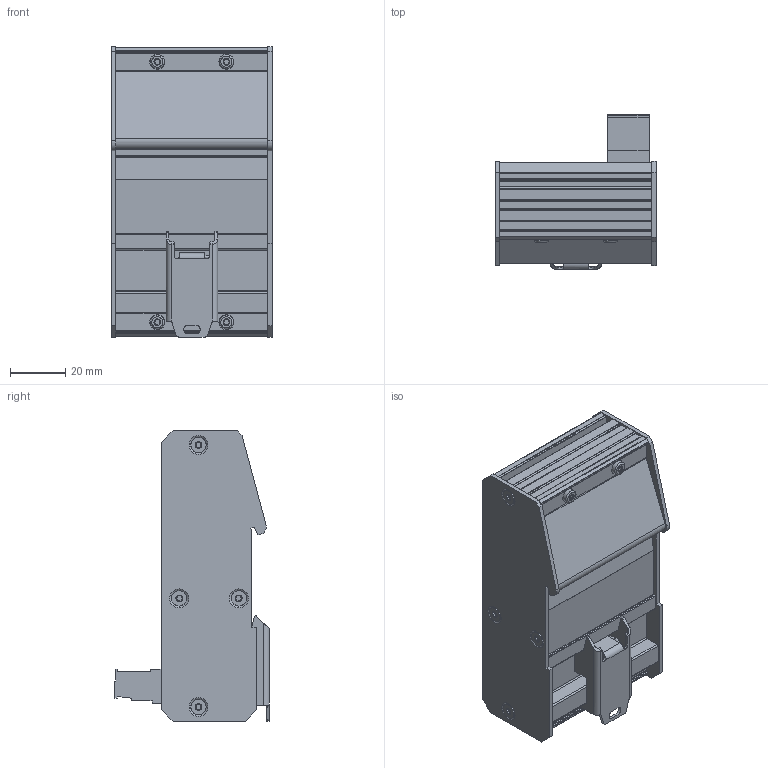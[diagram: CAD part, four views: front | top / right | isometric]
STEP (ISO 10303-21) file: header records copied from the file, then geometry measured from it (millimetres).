
FILE_DESCRIPTION(('TFLEX Exchange Step'),'2;1');
FILE_NAME('TZCA01702A_NITE-RF8-GE.stp', '2020-04-03T08:53:04+02:00',('User'),('Unknown organisation'),'TFLEX Exchange 2019.0','T-FLEX CAD','Unknown authorisation');
FILE_SCHEMA( ('AUTOMOTIVE_DESIGN { 1 0 10303 214 1 1 1 1 }') );
Length unit declared in the file: millimetre
Products named in the file (1): TZCA01702A_NITE-RF8-GE
Bounding box: 58.1 x 55.9 x 105 mm (x, y, z)
Volume: 169985.5 mm3; surface area: 49653.5 mm2
Topology: 2 solids, 12 shells, 2380 faces, 6764 edges, 4522 vertices
Faces by surface type: plane 1558, cylinder 597, bspline 175, torus 26, cone 19, extrusion 5
Full cylindrical faces by diameter (mm): 0.5 x64, 1.2 x11, 1.3 x3, 2.2 x3, 3 x11, 3.2 x8, 3.75 x3, 3.95 x3, 5 x4, 5.4 x4, 5.5 x8
Entity records: 90461 total; most frequent: CARTESIAN_POINT 32299, ORIENTED_EDGE 13528, DIRECTION 9102, EDGE_CURVE 6764, VERTEX_POINT 4522, AXIS2_PLACEMENT_3D 3275, B_SPLINE_CURVE_WITH_KNOTS 3148, EDGE_LOOP 2720
